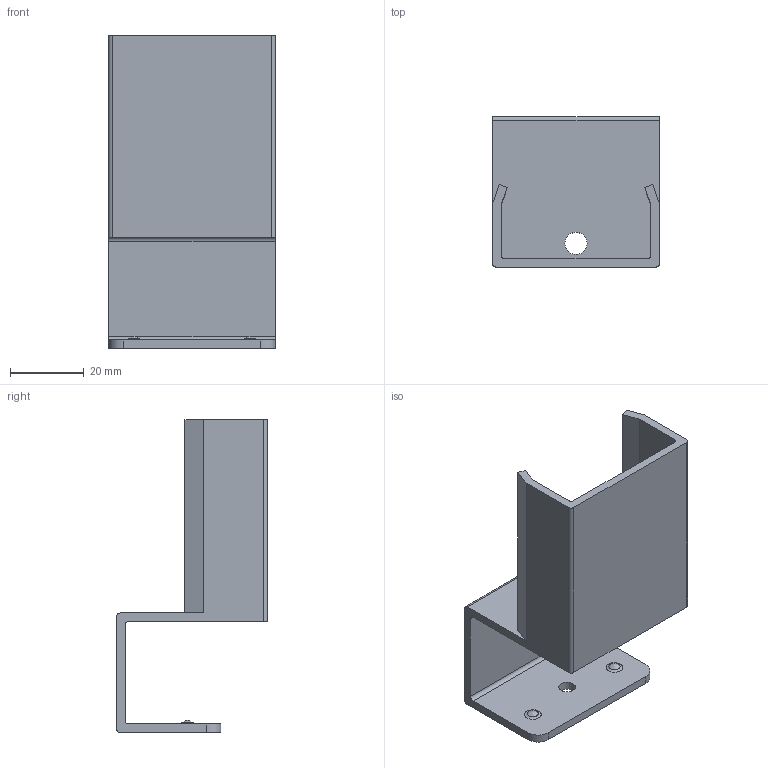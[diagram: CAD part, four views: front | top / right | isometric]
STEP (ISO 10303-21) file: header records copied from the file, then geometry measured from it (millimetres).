
FILE_DESCRIPTION (( 'STEP AP214' ), '1' );
FILE_NAME ('990-005.step', '2022-09-28T08:51:47', ( '' ), ( '' ), 'SwSTEP 2.0', 'SolidWorks 2021', '' );
FILE_SCHEMA (( 'AUTOMOTIVE_DESIGN' ));
Length unit declared in the file: millimetre
Products named in the file (1): 990-005
Bounding box: 45.1 x 40.8 x 84.6 mm (x, y, z)
Volume: 20129.2 mm3; surface area: 18304.9 mm2
Topology: 1 solids, 1 shells, 40 faces, 106 edges, 72 vertices
Faces by surface type: plane 20, cylinder 12, bspline 8
Full cylindrical faces by diameter (mm): 4.5 x1, 6 x1
Entity records: 1398 total; most frequent: CARTESIAN_POINT 405, ORIENTED_EDGE 200, DIRECTION 186, EDGE_CURVE 100, VERTEX_POINT 72, VECTOR 64, LINE 64, AXIS2_PLACEMENT_3D 61
